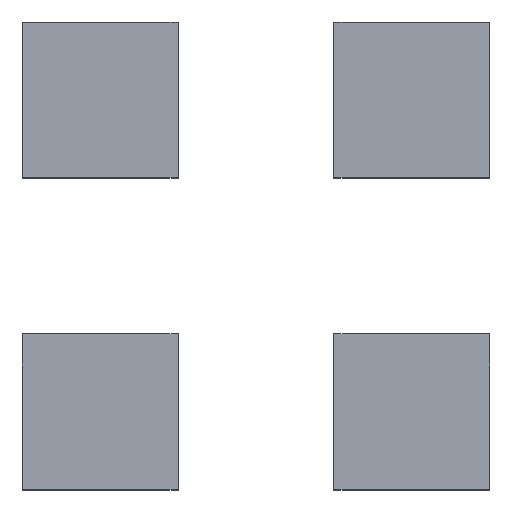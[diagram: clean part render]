
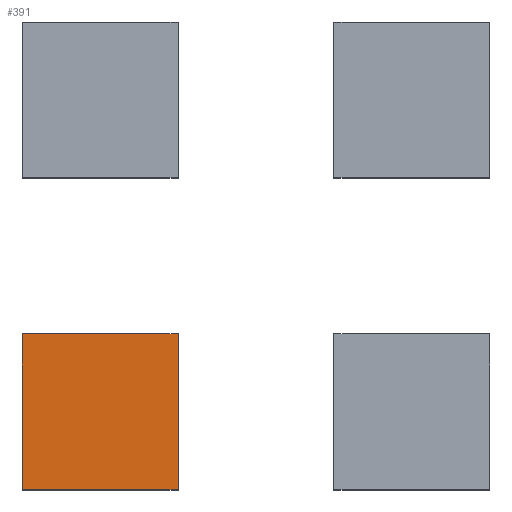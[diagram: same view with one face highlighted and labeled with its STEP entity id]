
A CAD part, top view. The second image highlights one B-rep face of the part: STEP entity #391.
In plain terms, the highlighted planar face has unit normal (0, 0, 1).
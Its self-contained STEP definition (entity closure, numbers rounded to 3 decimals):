
#77 = VERTEX_POINT('',#78);
#78 = CARTESIAN_POINT('',(-0.5,-0.5,0.5));
#85 = PLANE('',#86);
#86 = AXIS2_PLACEMENT_3D('',#87,#88,#89);
#87 = CARTESIAN_POINT('',(-0.5,-0.5,-0.5));
#88 = DIRECTION('',(1.,0.,0.));
#89 = DIRECTION('',(0.,0.,1.));
#97 = PLANE('',#98);
#98 = AXIS2_PLACEMENT_3D('',#99,#100,#101);
#99 = CARTESIAN_POINT('',(-0.5,-0.5,-0.5));
#100 = DIRECTION('',(0.,1.,0.));
#101 = DIRECTION('',(0.,0.,1.));
#138 = VERTEX_POINT('',#139);
#139 = CARTESIAN_POINT('',(-0.5,0.5,0.5));
#153 = PLANE('',#154);
#154 = AXIS2_PLACEMENT_3D('',#155,#156,#157);
#155 = CARTESIAN_POINT('',(-0.5,0.5,-0.5));
#156 = DIRECTION('',(0.,1.,0.));
#157 = DIRECTION('',(0.,0.,1.));
#165 = EDGE_CURVE('',#77,#138,#166,.T.);
#166 = SURFACE_CURVE('',#167,(#171,#178),.PCURVE_S1.);
#167 = LINE('',#168,#169);
#168 = CARTESIAN_POINT('',(-0.5,-0.5,0.5));
#169 = VECTOR('',#170,1.);
#170 = DIRECTION('',(0.,1.,0.));
#171 = PCURVE('',#85,#172);
#172 = DEFINITIONAL_REPRESENTATION('',(#173),#177);
#173 = LINE('',#174,#175);
#174 = CARTESIAN_POINT('',(1.,0.));
#175 = VECTOR('',#176,1.);
#176 = DIRECTION('',(0.,-1.));
#177 = ( GEOMETRIC_REPRESENTATION_CONTEXT(2) 
PARAMETRIC_REPRESENTATION_CONTEXT() REPRESENTATION_CONTEXT('2D SPACE',''
  ) );
#178 = PCURVE('',#179,#184);
#179 = PLANE('',#180);
#180 = AXIS2_PLACEMENT_3D('',#181,#182,#183);
#181 = CARTESIAN_POINT('',(-0.5,-0.5,0.5));
#182 = DIRECTION('',(0.,0.,1.));
#183 = DIRECTION('',(1.,0.,0.));
#184 = DEFINITIONAL_REPRESENTATION('',(#185),#189);
#185 = LINE('',#186,#187);
#186 = CARTESIAN_POINT('',(0.,0.));
#187 = VECTOR('',#188,1.);
#188 = DIRECTION('',(0.,1.));
#189 = ( GEOMETRIC_REPRESENTATION_CONTEXT(2) 
PARAMETRIC_REPRESENTATION_CONTEXT() REPRESENTATION_CONTEXT('2D SPACE',''
  ) );
#197 = VERTEX_POINT('',#198);
#198 = CARTESIAN_POINT('',(0.5,-0.5,0.5));
#205 = PLANE('',#206);
#206 = AXIS2_PLACEMENT_3D('',#207,#208,#209);
#207 = CARTESIAN_POINT('',(0.5,-0.5,-0.5));
#208 = DIRECTION('',(1.,0.,0.));
#209 = DIRECTION('',(0.,0.,1.));
#248 = VERTEX_POINT('',#249);
#249 = CARTESIAN_POINT('',(0.5,0.5,0.5));
#270 = EDGE_CURVE('',#197,#248,#271,.T.);
#271 = SURFACE_CURVE('',#272,(#276,#283),.PCURVE_S1.);
#272 = LINE('',#273,#274);
#273 = CARTESIAN_POINT('',(0.5,-0.5,0.5));
#274 = VECTOR('',#275,1.);
#275 = DIRECTION('',(0.,1.,0.));
#276 = PCURVE('',#205,#277);
#277 = DEFINITIONAL_REPRESENTATION('',(#278),#282);
#278 = LINE('',#279,#280);
#279 = CARTESIAN_POINT('',(1.,0.));
#280 = VECTOR('',#281,1.);
#281 = DIRECTION('',(0.,-1.));
#282 = ( GEOMETRIC_REPRESENTATION_CONTEXT(2) 
PARAMETRIC_REPRESENTATION_CONTEXT() REPRESENTATION_CONTEXT('2D SPACE',''
  ) );
#283 = PCURVE('',#179,#284);
#284 = DEFINITIONAL_REPRESENTATION('',(#285),#289);
#285 = LINE('',#286,#287);
#286 = CARTESIAN_POINT('',(1.,0.));
#287 = VECTOR('',#288,1.);
#288 = DIRECTION('',(0.,1.));
#289 = ( GEOMETRIC_REPRESENTATION_CONTEXT(2) 
PARAMETRIC_REPRESENTATION_CONTEXT() REPRESENTATION_CONTEXT('2D SPACE',''
  ) );
#316 = EDGE_CURVE('',#77,#197,#317,.T.);
#317 = SURFACE_CURVE('',#318,(#322,#329),.PCURVE_S1.);
#318 = LINE('',#319,#320);
#319 = CARTESIAN_POINT('',(-0.5,-0.5,0.5));
#320 = VECTOR('',#321,1.);
#321 = DIRECTION('',(1.,0.,0.));
#322 = PCURVE('',#97,#323);
#323 = DEFINITIONAL_REPRESENTATION('',(#324),#328);
#324 = LINE('',#325,#326);
#325 = CARTESIAN_POINT('',(1.,0.));
#326 = VECTOR('',#327,1.);
#327 = DIRECTION('',(0.,1.));
#328 = ( GEOMETRIC_REPRESENTATION_CONTEXT(2) 
PARAMETRIC_REPRESENTATION_CONTEXT() REPRESENTATION_CONTEXT('2D SPACE',''
  ) );
#329 = PCURVE('',#179,#330);
#330 = DEFINITIONAL_REPRESENTATION('',(#331),#335);
#331 = LINE('',#332,#333);
#332 = CARTESIAN_POINT('',(0.,0.));
#333 = VECTOR('',#334,1.);
#334 = DIRECTION('',(1.,0.));
#335 = ( GEOMETRIC_REPRESENTATION_CONTEXT(2) 
PARAMETRIC_REPRESENTATION_CONTEXT() REPRESENTATION_CONTEXT('2D SPACE',''
  ) );
#363 = EDGE_CURVE('',#138,#248,#364,.T.);
#364 = SURFACE_CURVE('',#365,(#369,#376),.PCURVE_S1.);
#365 = LINE('',#366,#367);
#366 = CARTESIAN_POINT('',(-0.5,0.5,0.5));
#367 = VECTOR('',#368,1.);
#368 = DIRECTION('',(1.,0.,0.));
#369 = PCURVE('',#153,#370);
#370 = DEFINITIONAL_REPRESENTATION('',(#371),#375);
#371 = LINE('',#372,#373);
#372 = CARTESIAN_POINT('',(1.,0.));
#373 = VECTOR('',#374,1.);
#374 = DIRECTION('',(0.,1.));
#375 = ( GEOMETRIC_REPRESENTATION_CONTEXT(2) 
PARAMETRIC_REPRESENTATION_CONTEXT() REPRESENTATION_CONTEXT('2D SPACE',''
  ) );
#376 = PCURVE('',#179,#377);
#377 = DEFINITIONAL_REPRESENTATION('',(#378),#382);
#378 = LINE('',#379,#380);
#379 = CARTESIAN_POINT('',(0.,1.));
#380 = VECTOR('',#381,1.);
#381 = DIRECTION('',(1.,0.));
#382 = ( GEOMETRIC_REPRESENTATION_CONTEXT(2) 
PARAMETRIC_REPRESENTATION_CONTEXT() REPRESENTATION_CONTEXT('2D SPACE',''
  ) );
#391 = ADVANCED_FACE('',(#392),#179,.T.);
#392 = FACE_BOUND('',#393,.T.);
#393 = EDGE_LOOP('',(#394,#395,#396,#397));
#394 = ORIENTED_EDGE('',*,*,#165,.F.);
#395 = ORIENTED_EDGE('',*,*,#316,.T.);
#396 = ORIENTED_EDGE('',*,*,#270,.T.);
#397 = ORIENTED_EDGE('',*,*,#363,.F.);
